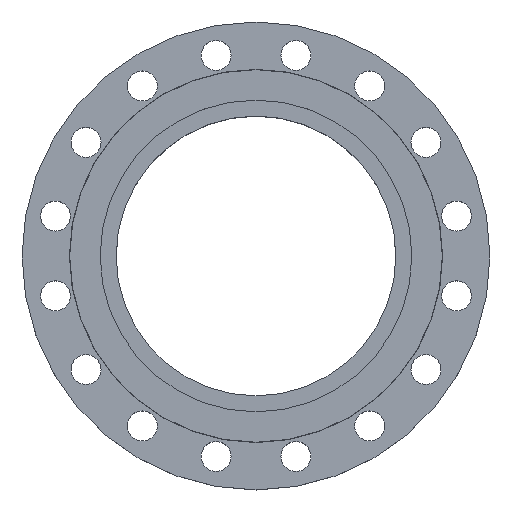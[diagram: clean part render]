
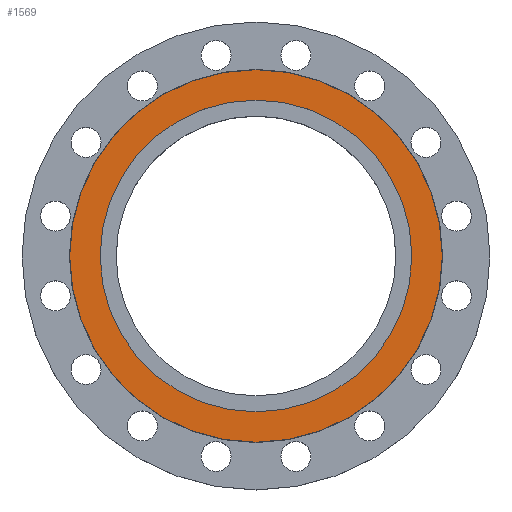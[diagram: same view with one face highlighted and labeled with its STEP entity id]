
A CAD part, top view. The second image highlights one B-rep face of the part: STEP entity #1569.
In plain terms, the highlighted planar face has unit normal (0, 0, 1).
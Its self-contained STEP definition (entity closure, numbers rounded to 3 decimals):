
#67 = CARTESIAN_POINT ( 'NONE',  ( 205., 0., 0. ) ) ;
#195 = CARTESIAN_POINT ( 'NONE',  ( 171.5, 0., 0. ) ) ;
#209 = CIRCLE ( 'NONE', #858, 205. ) ;
#225 = CARTESIAN_POINT ( 'NONE',  ( -205., 0., 0. ) ) ;
#409 = CARTESIAN_POINT ( 'NONE',  ( -171.5, 0., 0. ) ) ;
#425 = DIRECTION ( 'NONE',  ( -1., 0., 0. ) ) ;
#428 = DIRECTION ( 'NONE',  ( 0., 0., -1. ) ) ;
#429 = CARTESIAN_POINT ( 'NONE',  ( 0., 0., 0. ) ) ;
#435 = EDGE_CURVE ( 'NONE', #969, #1326, #1558, .T. ) ;
#609 = AXIS2_PLACEMENT_3D ( 'NONE', #1719, #1716, #1714 ) ;
#682 = DIRECTION ( 'NONE',  ( -1., 0., 0. ) ) ;
#683 = DIRECTION ( 'NONE',  ( 0., 0., -1. ) ) ;
#691 = CARTESIAN_POINT ( 'NONE',  ( 0., 0., 0. ) ) ;
#715 = DIRECTION ( 'NONE',  ( -1., 0., 0. ) ) ;
#717 = DIRECTION ( 'NONE',  ( 0., 0., -1. ) ) ;
#718 = CARTESIAN_POINT ( 'NONE',  ( 0., 0., 0. ) ) ;
#858 = AXIS2_PLACEMENT_3D ( 'NONE', #429, #428, #425 ) ;
#925 = EDGE_CURVE ( 'NONE', #1413, #1302, #209, .T. ) ;
#969 = VERTEX_POINT ( 'NONE', #409 ) ;
#988 = DIRECTION ( 'NONE',  ( -1., 0., 0. ) ) ;
#998 = DIRECTION ( 'NONE',  ( 0., 0., -1. ) ) ;
#1000 = CIRCLE ( 'NONE', #1020, 205. ) ;
#1006 = CARTESIAN_POINT ( 'NONE',  ( 0., 0., 0. ) ) ;
#1020 = AXIS2_PLACEMENT_3D ( 'NONE', #1006, #998, #988 ) ;
#1064 = CIRCLE ( 'NONE', #1086, 171.5 ) ;
#1086 = AXIS2_PLACEMENT_3D ( 'NONE', #691, #683, #682 ) ;
#1094 = EDGE_LOOP ( 'NONE', ( #1112, #1179 ) ) ;
#1112 = ORIENTED_EDGE ( 'NONE', *, *, #435, .T. ) ;
#1179 = ORIENTED_EDGE ( 'NONE', *, *, #1751, .T. ) ;
#1302 = VERTEX_POINT ( 'NONE', #225 ) ;
#1326 = VERTEX_POINT ( 'NONE', #195 ) ;
#1413 = VERTEX_POINT ( 'NONE', #67 ) ;
#1558 = CIRCLE ( 'NONE', #1568, 171.5 ) ;
#1568 = AXIS2_PLACEMENT_3D ( 'NONE', #718, #717, #715 ) ;
#1569 = ADVANCED_FACE ( 'NONE', ( #1723, #1721 ), #1720, .T. ) ;
#1676 = EDGE_LOOP ( 'NONE', ( #1690, #1698 ) ) ;
#1690 = ORIENTED_EDGE ( 'NONE', *, *, #1746, .F. ) ;
#1698 = ORIENTED_EDGE ( 'NONE', *, *, #925, .F. ) ;
#1714 = DIRECTION ( 'NONE',  ( 1., 0., 0. ) ) ;
#1716 = DIRECTION ( 'NONE',  ( 0., 0., 1. ) ) ;
#1719 = CARTESIAN_POINT ( 'NONE',  ( 0., 0., 0. ) ) ;
#1720 = PLANE ( 'NONE',  #609 ) ;
#1721 = FACE_BOUND ( 'NONE', #1094, .T. ) ;
#1723 = FACE_OUTER_BOUND ( 'NONE', #1676, .T. ) ;
#1746 = EDGE_CURVE ( 'NONE', #1302, #1413, #1000, .T. ) ;
#1751 = EDGE_CURVE ( 'NONE', #1326, #969, #1064, .T. ) ;
